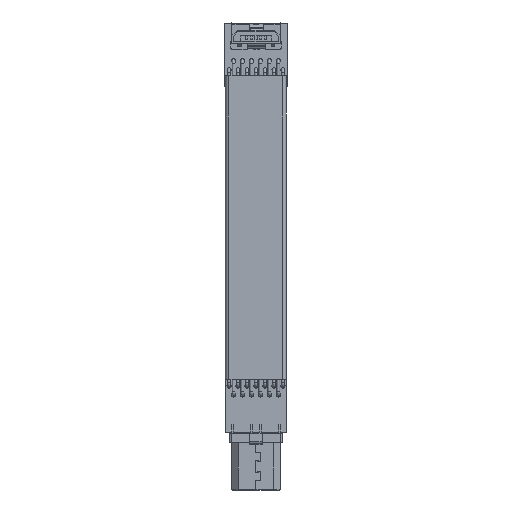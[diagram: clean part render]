
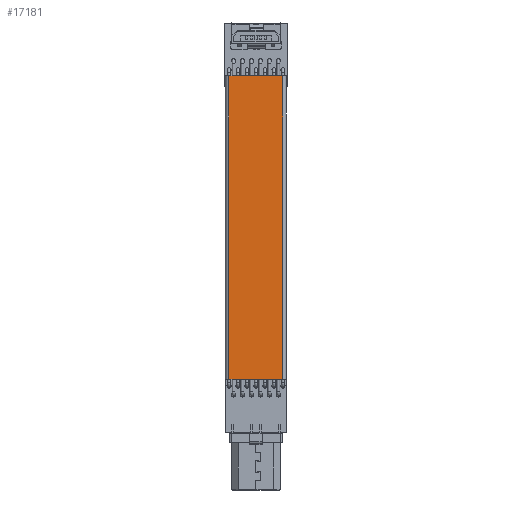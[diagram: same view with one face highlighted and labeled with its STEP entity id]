
A CAD part, top view. The second image highlights one B-rep face of the part: STEP entity #17181.
In plain terms, the highlighted planar face has unit normal (0, 0, 1) as drawn and (0, 1, 0) by its records, which use the part's own axes.
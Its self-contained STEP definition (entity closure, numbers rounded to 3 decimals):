
#16705 = VERTEX_POINT('',#16706);
#16706 = CARTESIAN_POINT('',(-0.001,-0.201,43.));
#16713 = EDGE_CURVE('',#16705,#16714,#16716,.T.);
#16714 = VERTEX_POINT('',#16715);
#16715 = CARTESIAN_POINT('',(-7.621,-0.201,43.));
#16716 = LINE('',#16717,#16718);
#16717 = CARTESIAN_POINT('',(-7.621,-0.201,43.));
#16718 = VECTOR('',#16719,1.);
#16719 = DIRECTION('',(-1.,0.,0.));
#16882 = VERTEX_POINT('',#16883);
#16883 = CARTESIAN_POINT('',(-0.001,-0.201,
    0.));
#16899 = VERTEX_POINT('',#16900);
#16900 = CARTESIAN_POINT('',(-7.621,-0.201,0.));
#16907 = EDGE_CURVE('',#16882,#16899,#16908,.T.);
#16908 = LINE('',#16909,#16910);
#16909 = CARTESIAN_POINT('',(-7.621,-0.201,0.));
#16910 = VECTOR('',#16911,1.);
#16911 = DIRECTION('',(-1.,0.,0.));
#17137 = EDGE_CURVE('',#16882,#16705,#17138,.T.);
#17138 = LINE('',#17139,#17140);
#17139 = CARTESIAN_POINT('',(-0.001,-0.201,
    0.));
#17140 = VECTOR('',#17141,1.);
#17141 = DIRECTION('',(0.,0.,1.));
#17169 = EDGE_CURVE('',#16899,#16714,#17170,.T.);
#17170 = LINE('',#17171,#17172);
#17171 = CARTESIAN_POINT('',(-7.621,-0.201,0.));
#17172 = VECTOR('',#17173,1.);
#17173 = DIRECTION('',(0.,0.,1.));
#17181 = ADVANCED_FACE('',(#17182),#17188,.T.);
#17182 = FACE_BOUND('',#17183,.T.);
#17183 = EDGE_LOOP('',(#17184,#17185,#17186,#17187));
#17184 = ORIENTED_EDGE('',*,*,#16713,.F.);
#17185 = ORIENTED_EDGE('',*,*,#17137,.F.);
#17186 = ORIENTED_EDGE('',*,*,#16907,.T.);
#17187 = ORIENTED_EDGE('',*,*,#17169,.T.);
#17188 = PLANE('',#17189);
#17189 = AXIS2_PLACEMENT_3D('',#17190,#17191,#17192);
#17190 = CARTESIAN_POINT('',(-7.621,-0.201,0.));
#17191 = DIRECTION('',(0.,1.,0.));
#17192 = DIRECTION('',(0.,0.,1.));
